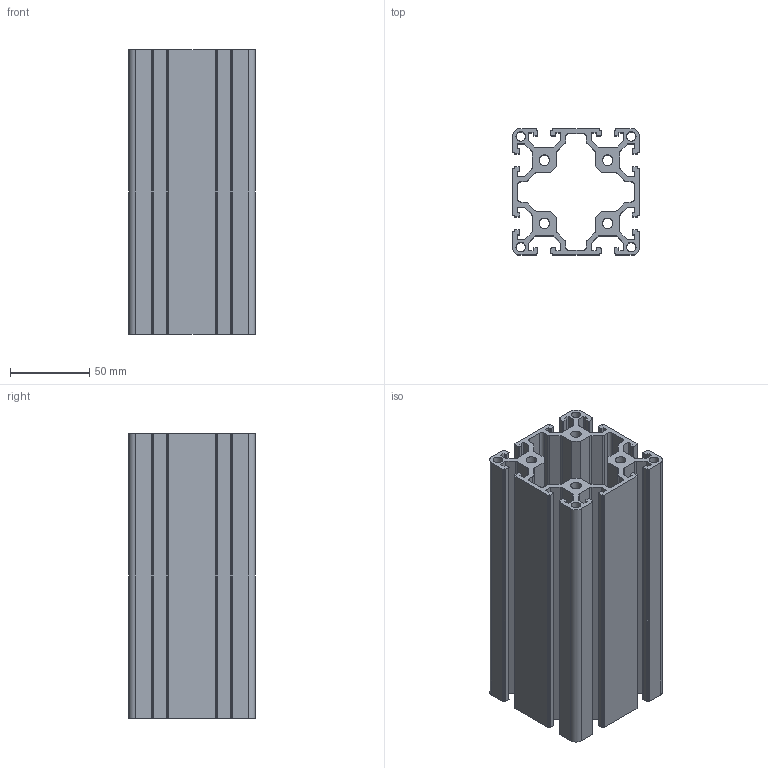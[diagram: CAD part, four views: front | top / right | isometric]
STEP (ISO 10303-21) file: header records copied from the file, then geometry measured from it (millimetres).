
FILE_DESCRIPTION((''),'2;1');
FILE_NAME('E:\catalogue and flyer\Profile catalogue 2015\profile-step file,31MAr16\PS8080-8.stp','2016-03-31T14:21:28',('h029'),(''),'Autodesk Inventor 11','Autodesk Inventor 11','');
FILE_SCHEMA(('AUTOMOTIVE_DESIGN { 1 0 10303 214 1 1 1 1 }'));
Length unit declared in the file: millimetre
Products named in the file (1): PS8080-8
Bounding box: 80 x 80 x 180 mm (x, y, z)
Volume: 355121 mm3; surface area: 204969.4 mm2
Topology: 1 solids, 1 shells, 298 faces, 888 edges, 592 vertices
Faces by surface type: plane 182, cylinder 116
Full cylindrical faces by diameter (mm): 6 x4, 6.7 x4
Entity records: 10043 total; most frequent: CARTESIAN_POINT 1771, ORIENTED_EDGE 1760, DIRECTION 1710, EDGE_CURVE 880, VECTOR 648, LINE 648, VERTEX_POINT 592, AXIS2_PLACEMENT_3D 531
